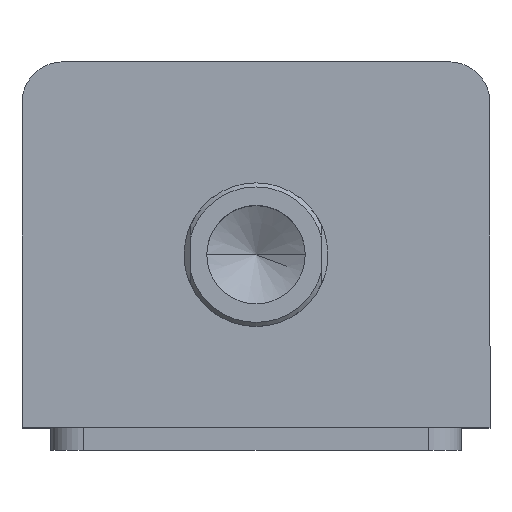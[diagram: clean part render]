
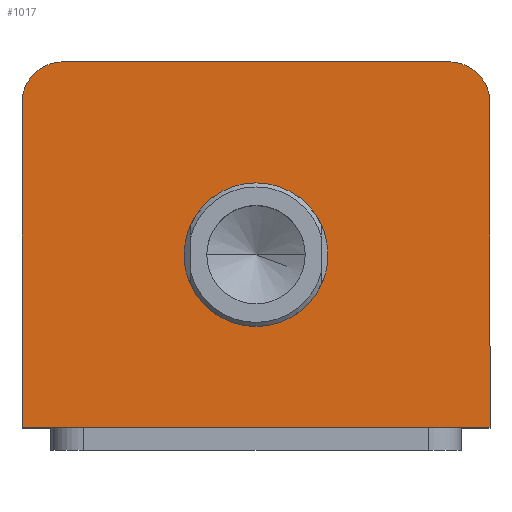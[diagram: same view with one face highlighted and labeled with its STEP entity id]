
A CAD part, top view. The second image highlights one B-rep face of the part: STEP entity #1017.
In plain terms, the highlighted planar face has unit normal (0, 0, 1).
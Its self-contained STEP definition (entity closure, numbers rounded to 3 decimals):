
#83 = VERTEX_POINT ( 'NONE', #2332 ) ;
#84 = VERTEX_POINT ( 'NONE', #2330 ) ;
#88 = VERTEX_POINT ( 'NONE', #2798 ) ;
#91 = VERTEX_POINT ( 'NONE', #1173 ) ;
#146 = ORIENTED_EDGE ( 'NONE', *, *, #3524, .T. ) ;
#147 = ORIENTED_EDGE ( 'NONE', *, *, #3528, .T. ) ;
#148 = ORIENTED_EDGE ( 'NONE', *, *, #3502, .T. ) ;
#152 = ORIENTED_EDGE ( 'NONE', *, *, #3463, .F. ) ;
#157 = ORIENTED_EDGE ( 'NONE', *, *, #3472, .T. ) ;
#158 = ORIENTED_EDGE ( 'NONE', *, *, #3465, .F. ) ;
#242 = VERTEX_POINT ( 'NONE', #1213 ) ;
#266 = VERTEX_POINT ( 'NONE', #1227 ) ;
#271 = VERTEX_POINT ( 'NONE', #1231 ) ;
#436 = CARTESIAN_POINT ( 'NONE',  ( -57., 34.5, 172. ) ) ;
#651 = CARTESIAN_POINT ( 'NONE',  ( 0., 0., 172. ) ) ;
#657 = PLANE ( 'NONE',  #2982 ) ;
#659 = DIRECTION ( 'NONE',  ( 0., 0., 1. ) ) ;
#660 = DIRECTION ( 'NONE',  ( 1., 0., 0. ) ) ;
#1017 = ADVANCED_FACE ( 'NONE', ( #2097, #2100 ), #657, .T. ) ;
#1173 = CARTESIAN_POINT ( 'NONE',  ( -57., -44.5, 172. ) ) ;
#1213 = CARTESIAN_POINT ( 'NONE',  ( 57., 34.5, 172. ) ) ;
#1227 = CARTESIAN_POINT ( 'NONE',  ( -47., 44.5, 172. ) ) ;
#1231 = CARTESIAN_POINT ( 'NONE',  ( 47., 44.5, 172. ) ) ;
#1256 = CARTESIAN_POINT ( 'NONE',  ( -57., 44.5, 172. ) ) ;
#1257 = DIRECTION ( 'NONE',  ( 0., -1., 0. ) ) ;
#1366 = CARTESIAN_POINT ( 'NONE',  ( 57., 44.5, 172. ) ) ;
#1367 = DIRECTION ( 'NONE',  ( 0., 1., 0. ) ) ;
#1400 = CARTESIAN_POINT ( 'NONE',  ( -57., 44.5, 172. ) ) ;
#1401 = DIRECTION ( 'NONE',  ( -1., 0., 0. ) ) ;
#1432 = CARTESIAN_POINT ( 'NONE',  ( 47., 34.5, 172. ) ) ;
#1433 = DIRECTION ( 'NONE',  ( 0., 0., 1. ) ) ;
#1434 = DIRECTION ( 'NONE',  ( 1., 0., 0. ) ) ;
#1459 = CARTESIAN_POINT ( 'NONE',  ( -47., 34.5, 172. ) ) ;
#1460 = DIRECTION ( 'NONE',  ( 0., 0., 1. ) ) ;
#1461 = DIRECTION ( 'NONE',  ( 1., 0., 0. ) ) ;
#1666 = CARTESIAN_POINT ( 'NONE',  ( 0., -2.5, 172. ) ) ;
#1667 = DIRECTION ( 'NONE',  ( 0., 0., 1. ) ) ;
#1668 = DIRECTION ( 'NONE',  ( 1., 0., 0. ) ) ;
#1669 = CARTESIAN_POINT ( 'NONE',  ( 0., -2.5, 172. ) ) ;
#1670 = DIRECTION ( 'NONE',  ( 0., 0., 1. ) ) ;
#1671 = DIRECTION ( 'NONE',  ( 1., 0., 0. ) ) ;
#1680 = CARTESIAN_POINT ( 'NONE',  ( -57., -44.5, 172. ) ) ;
#1690 = DIRECTION ( 'NONE',  ( 1., 0., 0. ) ) ;
#2097 = FACE_BOUND ( 'NONE', #2745, .T. ) ;
#2100 = FACE_OUTER_BOUND ( 'NONE', #2747, .T. ) ;
#2330 = CARTESIAN_POINT ( 'NONE',  ( 57., -44.5, 172. ) ) ;
#2332 = CARTESIAN_POINT ( 'NONE',  ( -17.5, -2.5, 172. ) ) ;
#2377 = CIRCLE ( 'NONE', #3384, 17.5 ) ;
#2378 = CIRCLE ( 'NONE', #3383, 17.5 ) ;
#2384 = LINE ( 'NONE', #1680, #2392 ) ;
#2392 = VECTOR ( 'NONE', #1690, 1000. ) ;
#2419 = LINE ( 'NONE', #1366, #2422 ) ;
#2422 = VECTOR ( 'NONE', #1367, 1000. ) ;
#2446 = LINE ( 'NONE', #1400, #2449 ) ;
#2449 = VECTOR ( 'NONE', #1401, 1000. ) ;
#2462 = CIRCLE ( 'NONE', #3368, 10. ) ;
#2475 = CIRCLE ( 'NONE', #3361, 10. ) ;
#2481 = LINE ( 'NONE', #1256, #2484 ) ;
#2484 = VECTOR ( 'NONE', #1257, 1000. ) ;
#2633 = ORIENTED_EDGE ( 'NONE', *, *, #3487, .T. ) ;
#2641 = ORIENTED_EDGE ( 'NONE', *, *, #3515, .T. ) ;
#2725 = VERTEX_POINT ( 'NONE', #436 ) ;
#2745 = EDGE_LOOP ( 'NONE', ( #158, #152 ) ) ;
#2747 = EDGE_LOOP ( 'NONE', ( #148, #146, #147, #157, #2633, #2641 ) ) ;
#2798 = CARTESIAN_POINT ( 'NONE',  ( 17.5, -2.5, 172. ) ) ;
#2982 = AXIS2_PLACEMENT_3D ( 'NONE', #651, #659, #660 ) ;
#3361 = AXIS2_PLACEMENT_3D ( 'NONE', #1459, #1460, #1461 ) ;
#3368 = AXIS2_PLACEMENT_3D ( 'NONE', #1432, #1433, #1434 ) ;
#3383 = AXIS2_PLACEMENT_3D ( 'NONE', #1669, #1670, #1671 ) ;
#3384 = AXIS2_PLACEMENT_3D ( 'NONE', #1666, #1667, #1668 ) ;
#3463 = EDGE_CURVE ( 'NONE', #83, #88, #2377, .T. ) ;
#3465 = EDGE_CURVE ( 'NONE', #88, #83, #2378, .T. ) ;
#3472 = EDGE_CURVE ( 'NONE', #91, #84, #2384, .T. ) ;
#3487 = EDGE_CURVE ( 'NONE', #84, #242, #2419, .T. ) ;
#3502 = EDGE_CURVE ( 'NONE', #271, #266, #2446, .T. ) ;
#3515 = EDGE_CURVE ( 'NONE', #242, #271, #2462, .T. ) ;
#3524 = EDGE_CURVE ( 'NONE', #266, #2725, #2475, .T. ) ;
#3528 = EDGE_CURVE ( 'NONE', #2725, #91, #2481, .T. ) ;
